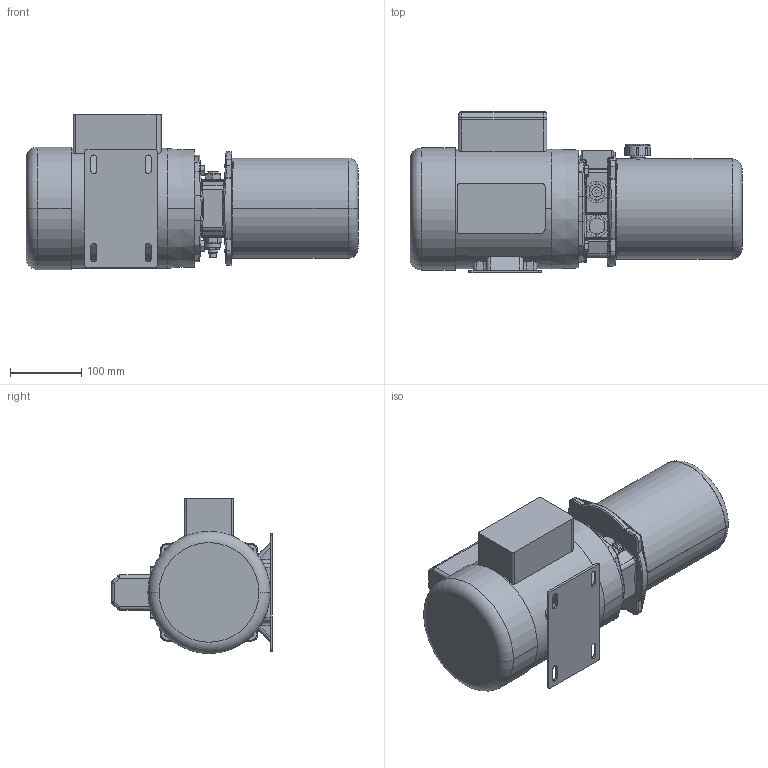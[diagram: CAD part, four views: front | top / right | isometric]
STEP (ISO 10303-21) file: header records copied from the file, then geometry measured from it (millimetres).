
FILE_DESCRIPTION((''),'2;1');
FILE_NAME('05-01-09_ASM','2016-05-10T',('DA10877'),('OILDYNE'),'PRO/ENGINEER BY PARAMETRIC TECHNOLOGY CORPORATION, 2009300','PRO/ENGINEER BY PARAMETRIC TECHNOLOGY CORPORATION, 2009300','');
FILE_SCHEMA(('CONFIG_CONTROL_DESIGN'));
Length unit declared in the file: inch
Products named in the file (1): 05-01-09_ASM
Bounding box: 465.33 x 225.55 x 217.55 mm (x, y, z)
Volume: 6312242.2 mm3; surface area: 577000.7 mm2
Topology: 8 solids, 26 shells, 1484 faces, 3465 edges, 2061 vertices
Faces by surface type: cylinder 525, plane 321, cone 246, bspline 185, torus 123, sphere 84
Entity records: 50408 total; most frequent: CARTESIAN_POINT 18242, ORIENTED_EDGE 6842, DIRECTION 6444, EDGE_CURVE 3450, AXIS2_PLACEMENT_3D 2641, VERTEX_POINT 2061, EDGE_LOOP 1622, FACE_OUTER_BOUND 1484
